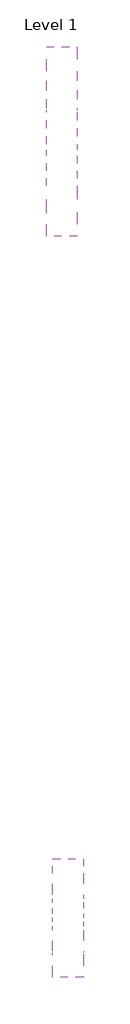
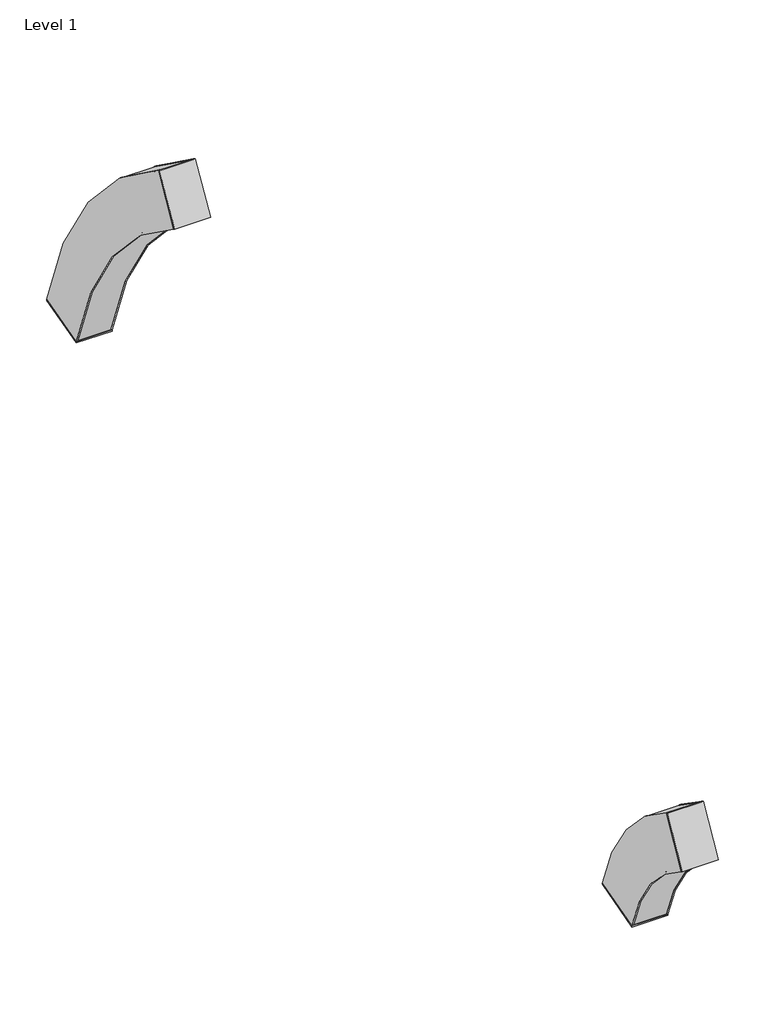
# One storey, incomplete: 2 light fixtures.
"""IFC4 building model written with IfcOpenShell, lengths in millimetres."""

from ifc_helpers import new_model, si_unit, origin, place, context, project, spatial, transform, mapped, element, save
from components import light_fixture_f2cc6ad9, light_fixture_7cf03bbb

model = new_model("IFC4")

# Units and contexts
model_context = context("Model", 3, world=origin())
ifc_project = project(units=[si_unit("LENGTHUNIT", "METRE", prefix="MILLI")], contexts=[model_context])

# Site, building, storey
site = spatial("IfcSite", under=ifc_project)
building = spatial("IfcBuilding", under=site)
storey = spatial("IfcBuildingStorey", under=building, Name="Level 1", Elevation=0.0)

# Light fixtures
placement = place(None, origin())
light_fixture_shape = light_fixture_f2cc6ad9(model_context)
element("IfcLightFixture", 1, ObjectType="Lighting-Recessed-Lumenwerx-Curvia_2_XYZ-INNC : CURV2PPAT-D-HLO-SW-80-350-35-1FT-INNC", at=placement, inside=storey, context=model_context, shape_type="MappedRepresentation", body=[
    mapped(light_fixture_shape, transform((559.0925278, -331.4130985, 760.4702599), x_axis=(1.0, 0.0, 0.0), y_axis=(0.0, -0.6173404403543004, 0.7866961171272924), z_axis=(0.0, -0.7866961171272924, -0.6173404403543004))),
])
light_fixture_2_shape = light_fixture_7cf03bbb(model_context)
element("IfcLightFixture", 2, ObjectType="Lighting-Recessed-Lumenwerx-Curvia_2_XYZ-INNC : CURV2PPAT-D-HLO-SW-80-350-35-1FT-INNC", at=placement, inside=storey, context=model_context, shape_type="MappedRepresentation", body=[
    mapped(light_fixture_2_shape, transform((546.7058823, 1200.889976, 935.7679077), x_axis=(1.0, 0.0, 0.0), y_axis=(0.0, -0.6064233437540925, 0.7951419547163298), z_axis=(0.0, -0.7951419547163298, -0.6064233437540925))),
])

save(model, "model.ifc")
